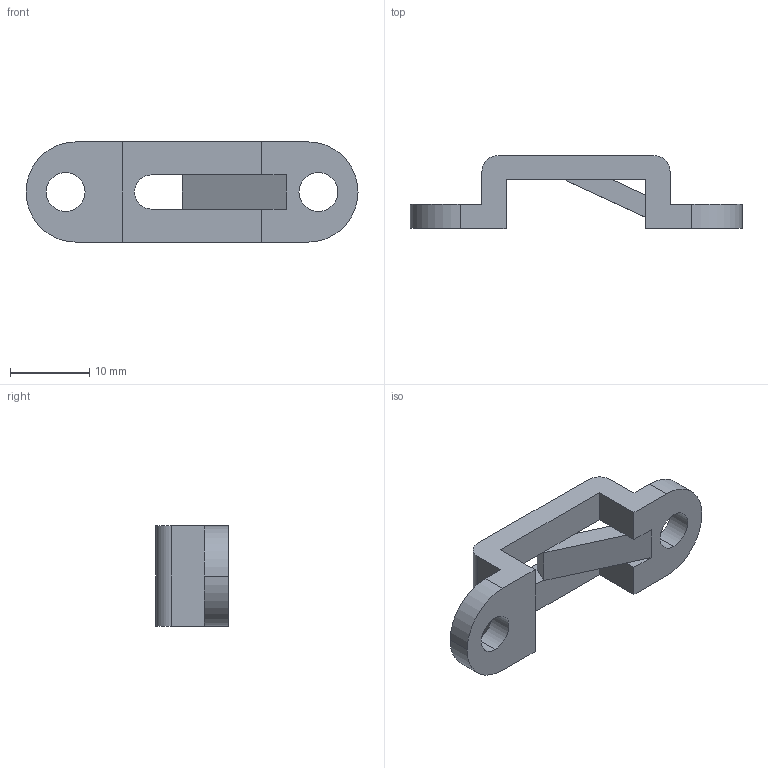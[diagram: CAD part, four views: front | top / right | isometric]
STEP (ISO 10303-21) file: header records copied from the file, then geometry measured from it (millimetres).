
FILE_DESCRIPTION (( 'STEP AP214' ), '1' );
FILE_NAME ('5031_V01_REF_STP_LOCKING_SINGLE_CLIP.STEP', '2025-04-10T18:56:53', ( '' ), ( '' ), 'SwSTEP 2.0', 'SolidWorks 2025', '' );
FILE_SCHEMA (( 'AUTOMOTIVE_DESIGN' ));
Length unit declared in the file: inch
Products named in the file (1): 5031_V01_REF_STP_LOCKING_SINGLE_CLIP
Bounding box: 42.01 x 9.22 x 12.7 mm (x, y, z)
Volume: 1688 mm3; surface area: 1771.8 mm2
Topology: 1 solids, 1 shells, 36 faces, 110 edges, 70 vertices
Faces by surface type: plane 24, cylinder 12
Entity records: 1265 total; most frequent: ORIENTED_EDGE 220, CARTESIAN_POINT 217, DIRECTION 208, EDGE_CURVE 110, VECTOR 86, LINE 86, VERTEX_POINT 70, AXIS2_PLACEMENT_3D 61
